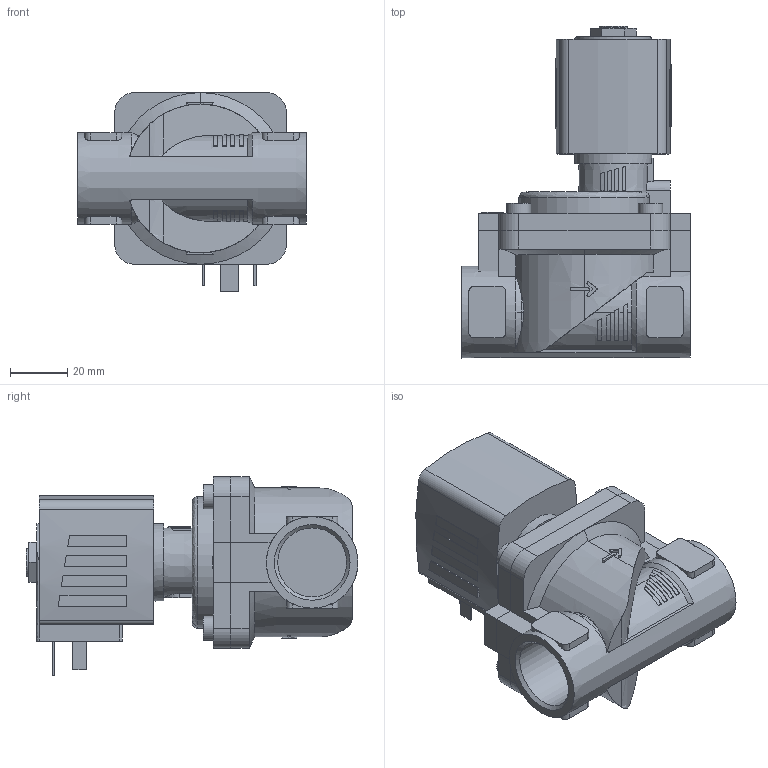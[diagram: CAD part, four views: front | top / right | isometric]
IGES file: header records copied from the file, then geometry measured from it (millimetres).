
Start section: Data from Parasolid IGES Translator 26.0.171, Copyright(c) 2006 Siemens PLM Software. All Rights Reserved.
Global section: file name: 6281-314356-2_2-Way_Solenoid_Valve__Servo-assisted__General_Purpose.igs; native system: By Siemens PLM Incorporated; preprocessor: XPlus GENERIC/IGES 26.0.171; author: Noname; organization: Noname; date: 20240820.213401; units: millimetre
Bounding box: 80 x 116 x 69.5 mm (x, y, z)
Surface area: 44283.9 mm2 (no closed solid volume)
Topology: 0 solids, 0 shells, 361 faces, 1846 edges, 1828 vertices
Faces by surface type: extrusion 235, revolution 126
